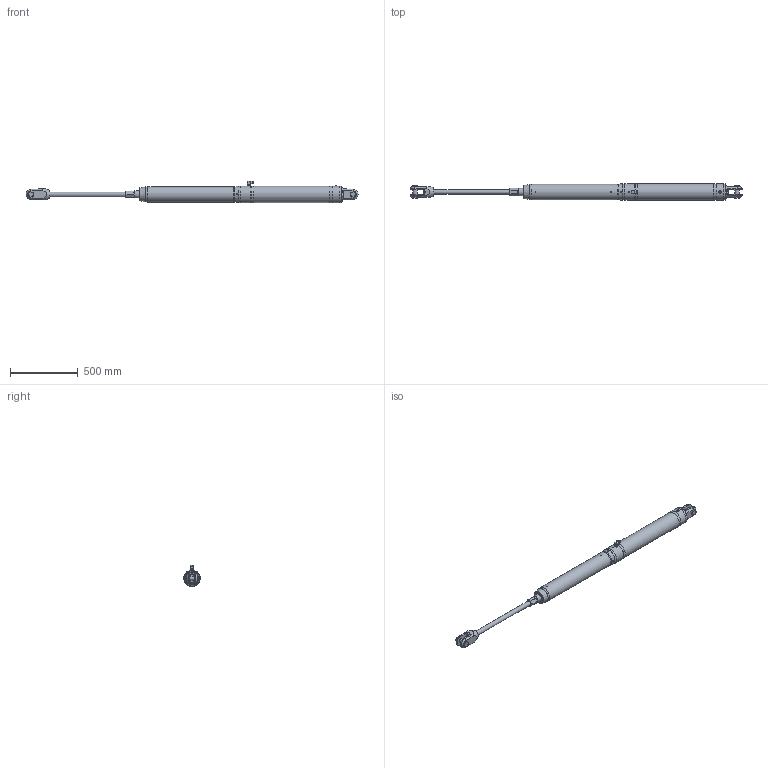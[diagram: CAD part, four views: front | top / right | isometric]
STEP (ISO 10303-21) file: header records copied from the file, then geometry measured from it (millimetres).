
FILE_DESCRIPTION(/* description */ (''),/* implementation_level */ '2;1');
FILE_NAME(/* name */ 'Q:\AA BRAND HYDRAULICS\HYDRAULICS FAMILY DIRECTORY\HYDRAULICS\CYLINDERS\MECHANICAL LOCK RAMS\ALUMINIUM - STAINLESS SINGLE ACTING (-0012 To -0150)\MSA-0076-S0550-NP-71\MSA-0076-S0550-NP-71 (Open).stp',/* time_stamp */ '2018-04-25T17:02:58+01:00',/* author */ ('Lorena'),/* organization */ (''),/* preprocessor_version */ 'ST-DEVELOPER v17',/* originating_system */ 'Autodesk Inventor 2018',/* authorisation */ '');
FILE_SCHEMA (('AUTOMOTIVE_DESIGN { 1 0 10303 214 3 1 1 }'));
Length unit declared in the file: millimetre
Products named in the file (1): MSA-0076-S0550-NP-71 (Open)
Bounding box: 2451.7 x 123.6 x 159.15 mm (x, y, z)
Volume: 18100157.7 mm3; surface area: 770128.7 mm2
Topology: 2 solids, 4 shells, 492 faces, 1287 edges, 840 vertices
Faces by surface type: plane 280, cone 124, cylinder 77, sphere 4, bspline 4, torus 3
Full cylindrical faces by diameter (mm): 4 x1, 4.134 x1, 4.2 x2, 5 x3, 7 x1, 7.5 x1, 8 x4, 8.1 x1, 9 x1, 10 x2, 14 x1, 14.35 x1, 14.662 x1, 15 x2, 15.25 x2, 15.662 x1, 16.662 x2, 18 x1, 20 x2, 21.4 x3, 25 x1, 31.75 x2, 34.25 x1, 39.688 x2, 53 x2, 54 x2, 57 x1, 114 x1, 120.6 x1, 123.6 x4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
Entity records: 16576 total; most frequent: CARTESIAN_POINT 4107, ORIENTED_EDGE 2556, DIRECTION 2480, EDGE_CURVE 1278, AXIS2_PLACEMENT_3D 948, VERTEX_POINT 841, LINE 584, VECTOR 584
